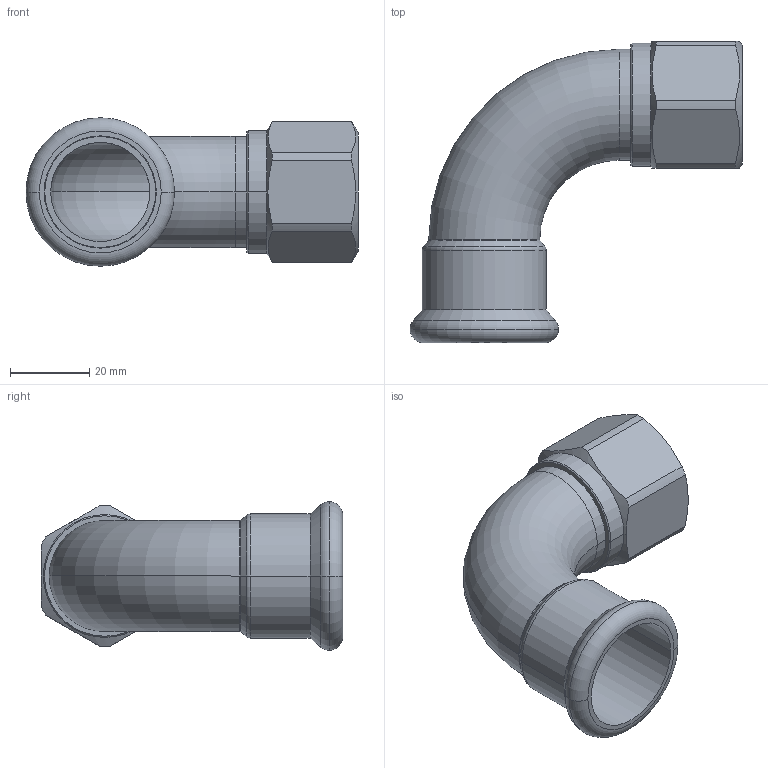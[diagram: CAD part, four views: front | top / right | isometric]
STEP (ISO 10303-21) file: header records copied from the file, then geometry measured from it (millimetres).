
FILE_DESCRIPTION(('CoCreate Modeling STEP Export'),'2;1');
FILE_NAME('C1438 28xRp3-4.stp','2014-11-12T16:37:36',(''),(''),'CoCreate Modeling STEP processor for AP214 (Solid Model)','CoCreate Modeling 17.00A 17-Jun-2010 (C) Parametric Technology GmbH','');
FILE_SCHEMA(('AUTOMOTIVE_DESIGN { 1 0 10303 214 1 1 1 1 }'));
Length unit declared in the file: millimetre
Products named in the file (2): C1438_28xRp3-4
Assembly tree (1 placements, depth 2):
  C1438_28xRp3-4
    C1438_28xRp3-4
Bounding box: 83.72 x 76 x 37.45 mm (x, y, z)
Volume: 23550.2 mm3; surface area: 20855 mm2
Topology: 1 solids, 1 shells, 62 faces, 139 edges, 83 vertices
Faces by surface type: cylinder 26, cone 14, plane 12, torus 10
Entity records: 2317 total; most frequent: CARTESIAN_POINT 1098, ORIENTED_EDGE 278, DIRECTION 200, EDGE_CURVE 139, VERTEX_POINT 83, AXIS2_PLACEMENT_3D 77, EDGE_LOOP 68, FACE_OUTER_BOUND 62
